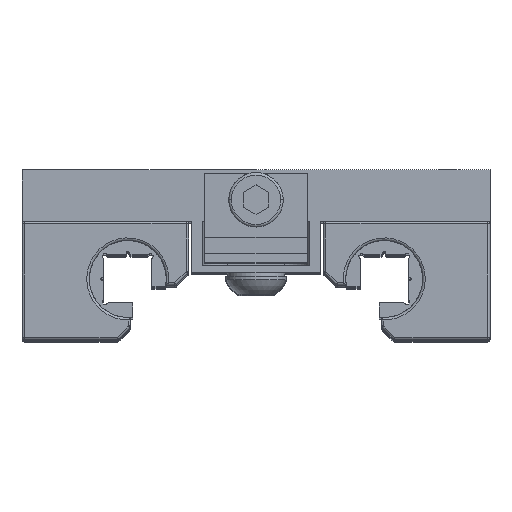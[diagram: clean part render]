
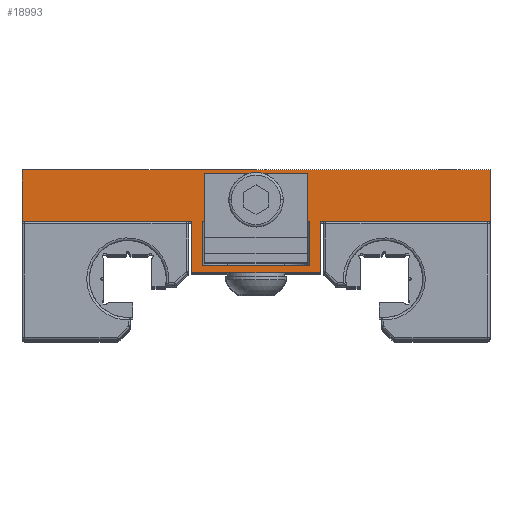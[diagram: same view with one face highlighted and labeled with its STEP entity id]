
A CAD part, top view. The second image highlights one B-rep face of the part: STEP entity #18993.
In plain terms, the highlighted planar face has unit normal (0, 0, 1).
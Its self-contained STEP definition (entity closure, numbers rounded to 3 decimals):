
#492=DIRECTION('',(1.,0.,0.));
#493=VECTOR('',#492,26.5);
#494=CARTESIAN_POINT('',(10.,-8.,100.));
#495=LINE('',#494,#493);
#499=DIRECTION('',(0.,-1.,0.));
#500=VECTOR('',#499,8.);
#501=CARTESIAN_POINT('',(10.,-8.,100.));
#502=LINE('',#501,#500);
#506=DIRECTION('',(-1.,0.,0.));
#507=VECTOR('',#506,20.);
#508=CARTESIAN_POINT('',(10.,-16.,100.));
#509=LINE('',#508,#507);
#513=DIRECTION('',(0.,1.,0.));
#514=VECTOR('',#513,8.);
#515=CARTESIAN_POINT('',(-10.,-16.,100.));
#516=LINE('',#515,#514);
#520=DIRECTION('',(1.,0.,0.));
#521=VECTOR('',#520,26.5);
#522=CARTESIAN_POINT('',(-36.5,-8.,100.));
#523=LINE('',#522,#521);
#527=DIRECTION('',(0.,-1.,0.));
#528=VECTOR('',#527,8.);
#529=CARTESIAN_POINT('',(-36.5,0.,100.));
#530=LINE('',#529,#528);
#534=DIRECTION('',(-1.,0.,0.));
#535=VECTOR('',#534,73.);
#536=CARTESIAN_POINT('',(36.5,0.,100.));
#537=LINE('',#536,#535);
#541=DIRECTION('',(0.,1.,0.));
#542=VECTOR('',#541,8.);
#543=CARTESIAN_POINT('',(36.5,-8.,100.));
#544=LINE('',#543,#542);
#548=DIRECTION('',(1.,0.,0.));
#549=VECTOR('',#548,0.4);
#550=CARTESIAN_POINT('',(-8.4,-8.,100.));
#551=LINE('',#550,#549);
#555=DIRECTION('',(0.,1.,0.));
#556=VECTOR('',#555,6.9);
#557=CARTESIAN_POINT('',(-8.4,-14.9,100.));
#558=LINE('',#557,#556);
#562=DIRECTION('',(1.,0.,0.));
#563=VECTOR('',#562,16.8);
#564=CARTESIAN_POINT('',(-8.4,-14.9,100.));
#565=LINE('',#564,#563);
#569=DIRECTION('',(0.,1.,0.));
#570=VECTOR('',#569,6.9);
#571=CARTESIAN_POINT('',(8.4,-14.9,100.));
#572=LINE('',#571,#570);
#576=DIRECTION('',(1.,0.,0.));
#577=VECTOR('',#576,0.4);
#578=CARTESIAN_POINT('',(8.,-8.,100.));
#579=LINE('',#578,#577);
#583=DIRECTION('',(0.,1.,0.));
#584=VECTOR('',#583,7.5);
#585=CARTESIAN_POINT('',(8.,-8.,100.));
#586=LINE('',#585,#584);
#590=DIRECTION('',(1.,0.,0.));
#591=VECTOR('',#590,16.);
#592=CARTESIAN_POINT('',(-8.,-0.5,100.));
#593=LINE('',#592,#591);
#597=DIRECTION('',(0.,1.,0.));
#598=VECTOR('',#597,7.5);
#599=CARTESIAN_POINT('',(-8.,-8.,100.));
#600=LINE('',#599,#598);
#16254=CARTESIAN_POINT('',(-36.5,0.,100.));
#16255=CARTESIAN_POINT('',(-36.5,-8.,100.));
#16256=VERTEX_POINT('',#16254);
#16257=VERTEX_POINT('',#16255);
#16258=CARTESIAN_POINT('',(36.5,-8.,100.));
#16259=CARTESIAN_POINT('',(36.5,0.,100.));
#16260=VERTEX_POINT('',#16258);
#16261=VERTEX_POINT('',#16259);
#16398=CARTESIAN_POINT('',(-8.,-8.,100.));
#16399=CARTESIAN_POINT('',(-8.,-0.5,100.));
#16400=VERTEX_POINT('',#16398);
#16401=VERTEX_POINT('',#16399);
#16402=CARTESIAN_POINT('',(8.,-8.,100.));
#16403=CARTESIAN_POINT('',(8.,-0.5,100.));
#16404=VERTEX_POINT('',#16402);
#16405=VERTEX_POINT('',#16403);
#18598=CARTESIAN_POINT('',(10.,-16.,100.));
#18599=CARTESIAN_POINT('',(-10.,-16.,100.));
#18600=VERTEX_POINT('',#18598);
#18601=VERTEX_POINT('',#18599);
#18606=CARTESIAN_POINT('',(-8.4,-14.9,100.));
#18607=CARTESIAN_POINT('',(8.4,-14.9,100.));
#18608=VERTEX_POINT('',#18606);
#18609=VERTEX_POINT('',#18607);
#18618=CARTESIAN_POINT('',(10.,-8.,100.));
#18620=VERTEX_POINT('',#18618);
#18622=CARTESIAN_POINT('',(-10.,-8.,100.));
#18624=VERTEX_POINT('',#18622);
#18626=CARTESIAN_POINT('',(8.4,-8.,100.));
#18628=VERTEX_POINT('',#18626);
#18634=CARTESIAN_POINT('',(-8.4,-8.,100.));
#18636=VERTEX_POINT('',#18634);
#18956=CARTESIAN_POINT('',(0.,-8.,100.));
#18957=DIRECTION('',(0.,0.,1.));
#18958=DIRECTION('',(1.,0.,0.));
#18959=AXIS2_PLACEMENT_3D('',#18956,#18957,#18958);
#18960=PLANE('',#18959);
#18961=ORIENTED_EDGE('',*,*,#18793,.F.);
#18962=ORIENTED_EDGE('',*,*,#18902,.T.);
#18964=ORIENTED_EDGE('',*,*,#18963,.T.);
#18965=ORIENTED_EDGE('',*,*,#18941,.T.);
#18966=ORIENTED_EDGE('',*,*,#18807,.F.);
#18968=ORIENTED_EDGE('',*,*,#18967,.F.);
#18970=ORIENTED_EDGE('',*,*,#18969,.F.);
#18972=ORIENTED_EDGE('',*,*,#18971,.F.);
#18973=EDGE_LOOP('',(#18961,#18962,#18964,#18965,#18966,#18968,#18970,#18972));
#18974=FACE_OUTER_BOUND('',#18973,.F.);
#18976=ORIENTED_EDGE('',*,*,#18975,.F.);
#18978=ORIENTED_EDGE('',*,*,#18977,.F.);
#18980=ORIENTED_EDGE('',*,*,#18979,.T.);
#18982=ORIENTED_EDGE('',*,*,#18981,.T.);
#18984=ORIENTED_EDGE('',*,*,#18983,.F.);
#18986=ORIENTED_EDGE('',*,*,#18985,.T.);
#18988=ORIENTED_EDGE('',*,*,#18987,.F.);
#18990=ORIENTED_EDGE('',*,*,#18989,.F.);
#18991=EDGE_LOOP('',(#18976,#18978,#18980,#18982,#18984,#18986,#18988,#18990));
#18992=FACE_BOUND('',#18991,.F.);
#18993=ADVANCED_FACE('',(#18974,#18992),#18960,.T.);
#18793=EDGE_CURVE('',#18620,#16260,#495,.T.);
#18807=EDGE_CURVE('',#16257,#18624,#523,.T.);
#18902=EDGE_CURVE('',#18620,#18600,#502,.T.);
#18941=EDGE_CURVE('',#18601,#18624,#516,.T.);
#18963=EDGE_CURVE('',#18600,#18601,#509,.T.);
#18967=EDGE_CURVE('',#16256,#16257,#530,.T.);
#18969=EDGE_CURVE('',#16261,#16256,#537,.T.);
#18971=EDGE_CURVE('',#16260,#16261,#544,.T.);
#18975=EDGE_CURVE('',#18636,#16400,#551,.T.);
#18977=EDGE_CURVE('',#18608,#18636,#558,.T.);
#18979=EDGE_CURVE('',#18608,#18609,#565,.T.);
#18981=EDGE_CURVE('',#18609,#18628,#572,.T.);
#18983=EDGE_CURVE('',#16404,#18628,#579,.T.);
#18985=EDGE_CURVE('',#16404,#16405,#586,.T.);
#18987=EDGE_CURVE('',#16401,#16405,#593,.T.);
#18989=EDGE_CURVE('',#16400,#16401,#600,.T.);
